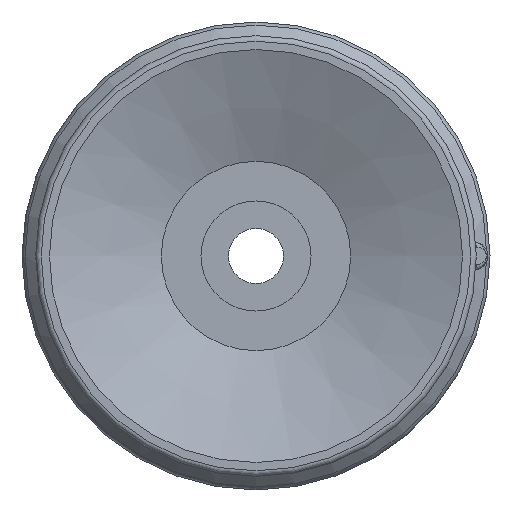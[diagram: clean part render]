
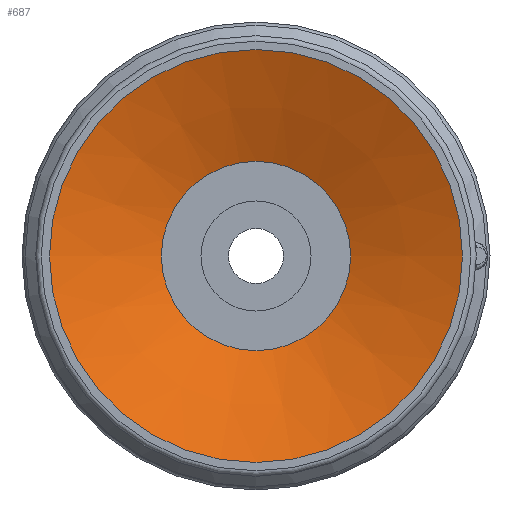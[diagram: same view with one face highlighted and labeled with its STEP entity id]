
A CAD part, front view. The second image highlights one B-rep face of the part: STEP entity #687.
In plain terms, the highlighted conical face has half-angle 67.5 degrees and reference radius 3.437 mm.
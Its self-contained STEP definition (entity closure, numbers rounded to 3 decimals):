
#687=ADVANCED_FACE('',(#981,#982),#983,.F.);
#981=FACE_BOUND('',#2399,.T.);
#982=FACE_OUTER_BOUND('',#2400,.T.);
#983=CONICAL_SURFACE('',#2401,3.437,1.178);
#2399=EDGE_LOOP('',(#3427));
#2400=EDGE_LOOP('',(#3428));
#2401=AXIS2_PLACEMENT_3D('',#3429,#3430,#3431);
#3427=ORIENTED_EDGE('',*,*,#4033,.F.);
#3428=ORIENTED_EDGE('',*,*,#4034,.T.);
#3429=CARTESIAN_POINT('',(0.0,0.0,1.683));
#3430=DIRECTION('',(0.0,0.,-1.0));
#3431=DIRECTION('',(0.0,1.0,0.));
#4033=EDGE_CURVE('',#4454,#4454,#4455,.T.);
#4034=EDGE_CURVE('',#4456,#4456,#4457,.T.);
#4454=VERTEX_POINT('',#5505);
#4455=CIRCLE('',#5506,3.437);
#4456=VERTEX_POINT('',#5507);
#4457=CIRCLE('',#5508,7.5);
#5505=CARTESIAN_POINT('',(-3.437,0.0,1.683));
#5506=AXIS2_PLACEMENT_3D('',#6247,#6248,#6249);
#5507=CARTESIAN_POINT('',(-7.5,0.0,0.));
#5508=AXIS2_PLACEMENT_3D('',#6250,#6251,#6252);
#6247=CARTESIAN_POINT('',(0.0,0.0,1.683));
#6248=DIRECTION('',(0.0,0.,-1.0));
#6249=DIRECTION('',(0.0,1.0,0.));
#6250=CARTESIAN_POINT('',(0.0,0.0,0.));
#6251=DIRECTION('',(0.0,0.,-1.0));
#6252=DIRECTION('',(0.0,1.0,0.));
